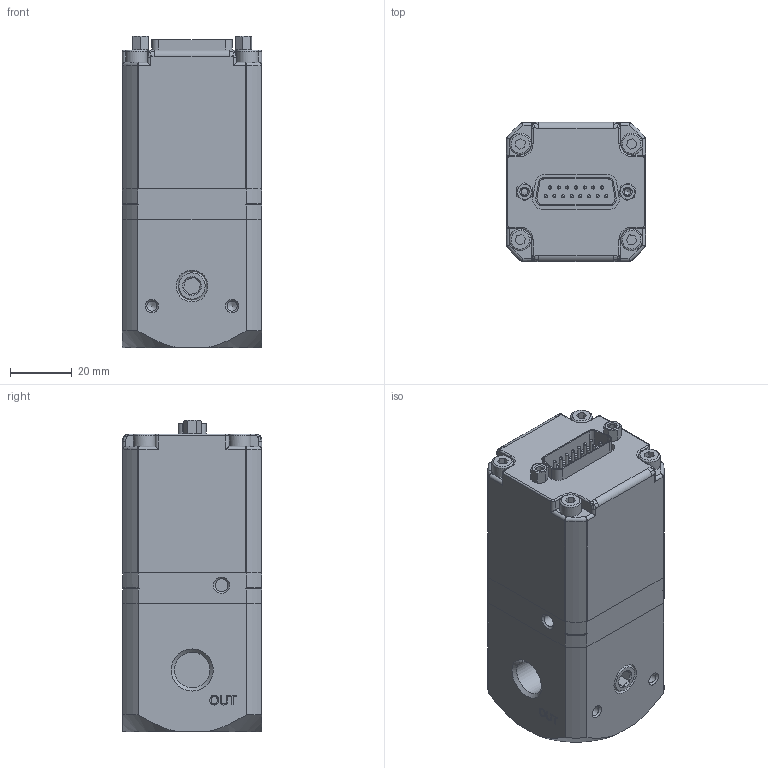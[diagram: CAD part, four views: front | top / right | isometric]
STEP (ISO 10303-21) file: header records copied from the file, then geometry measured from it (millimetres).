
FILE_DESCRIPTION(/* description */ ('R.PROP. TG1 F.E. CONTR.# FEED-VUOTO'),/* implementation_level */ '2;1');
FILE_NAME(/* name */ 'C:\PNX_VAULTFOLDER\Area Tecnica\Disegni\VARIE-3D\Componenti\1900 (vuoto)\191E2P_#_D_0090_##.stp',/* time_stamp */ '2019-09-13T15:05:47+02:00',/* author */ ('maniean1'),/* organization */ (''),/* preprocessor_version */ 'ST-DEVELOPER v17',/* originating_system */ 'Autodesk Inventor 2019',/* authorisation */ '');
FILE_SCHEMA (('AUTOMOTIVE_DESIGN { 1 0 10303 214 3 1 1 }'));
Length unit declared in the file: millimetre
Products named in the file (3): 191E2P.#.D.0090.##; 191E2P_#_D_0090_##; RK/1701/020
Assembly tree (3 placements, depth 2):
  191E2P.#.D.0090.##
    191E2P_#_D_0090_##
    RK/1701/020  x2
Bounding box: 45 x 45.14 x 100.8 mm (x, y, z)
Volume: 184423.3 mm3; surface area: 25766.9 mm2
Topology: 3 solids, 9 shells, 497 faces, 1316 edges, 860 vertices
Faces by surface type: plane 238, cylinder 123, bspline 54, cone 47, sphere 21, torus 14
Full cylindrical faces by diameter (mm): 1 x15, 2.156 x2, 2.5 x3, 3.242 x4, 4.134 x1, 4.5 x5, 4.8 x2, 6.5 x2, 7 x4, 8.5 x2, 8.566 x3, 10 x2, 11.445 x2
Entity records: 16502 total; most frequent: CARTESIAN_POINT 4389, ORIENTED_EDGE 2450, DIRECTION 2317, EDGE_CURVE 1225, AXIS2_PLACEMENT_3D 832, VERTEX_POINT 822, LINE 653, VECTOR 653
